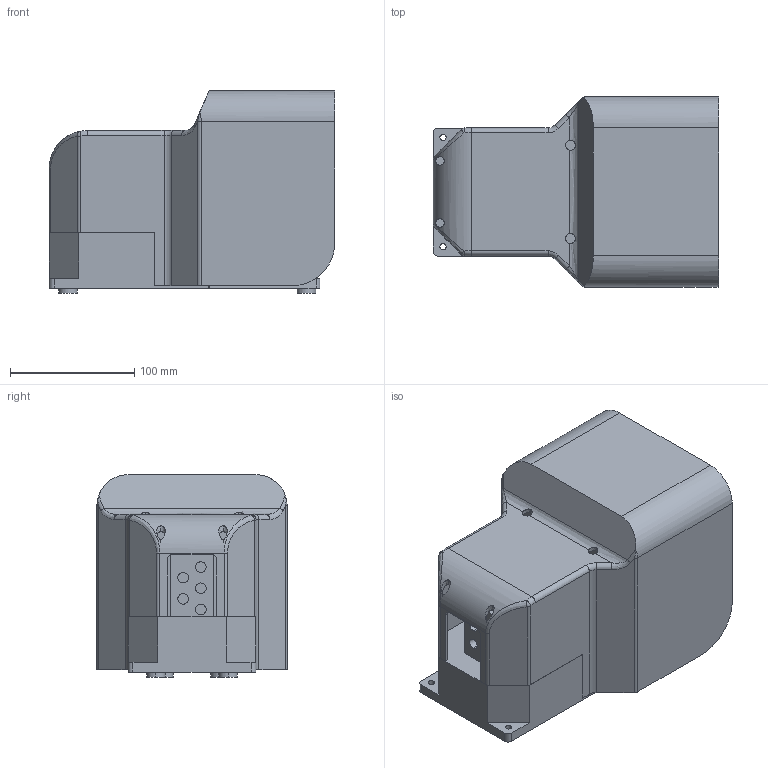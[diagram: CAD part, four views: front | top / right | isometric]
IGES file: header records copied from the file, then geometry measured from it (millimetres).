
Global section: file name: No Iges File Name specified; native system: AutoDesk Inventor R11.0; preprocessor: AutoDesk Inventor Iges Exporter R11.0; author: No Author specified; organization: No Organization specified; date: 20061219.114335; units: millimetre
Bounding box: 230 x 153 x 163 mm (x, y, z)
Volume: 1036936.3 mm3; surface area: 296304.5 mm2
Topology: 2 solids, 2 shells, 208 faces, 554 edges, 356 vertices
Faces by surface type: plane 94, cylinder 40, bspline 38, revolution 30, torus 4, sphere 2
